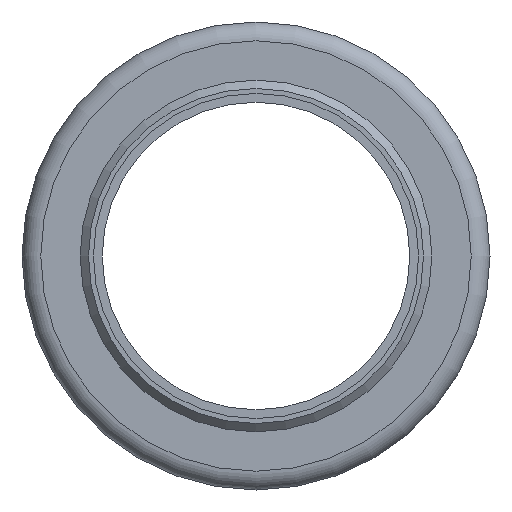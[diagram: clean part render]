
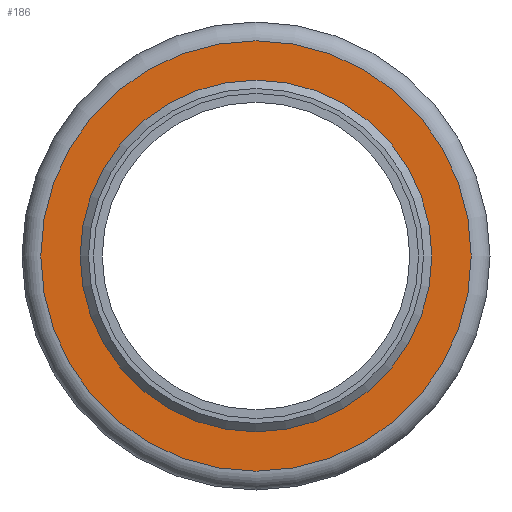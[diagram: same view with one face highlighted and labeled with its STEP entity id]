
A CAD part, front view. The second image highlights one B-rep face of the part: STEP entity #186.
In plain terms, the highlighted planar face has unit normal (0, -1, 0).
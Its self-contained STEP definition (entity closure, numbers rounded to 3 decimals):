
#34=PLANE('',#236);
#55=ORIENTED_EDGE('',*,*,#81,.T.);
#56=ORIENTED_EDGE('',*,*,#80,.F.);
#80=EDGE_CURVE('',#95,#95,#110,.T.);
#81=EDGE_CURVE('',#96,#96,#111,.T.);
#95=VERTEX_POINT('',#342);
#96=VERTEX_POINT('',#345);
#110=CIRCLE('',#235,84.15);
#111=CIRCLE('',#237,103.);
#130=EDGE_LOOP('',(#55));
#131=EDGE_LOOP('',(#56));
#160=FACE_BOUND('',#130,.T.);
#161=FACE_BOUND('',#131,.T.);
#186=ADVANCED_FACE('',(#160,#161),#34,.T.);
#235=AXIS2_PLACEMENT_3D('',#341,#282,#283);
#236=AXIS2_PLACEMENT_3D('',#343,#284,#285);
#237=AXIS2_PLACEMENT_3D('',#344,#286,#287);
#282=DIRECTION('',(0.,-1.,0.));
#283=DIRECTION('',(0.,0.,-1.));
#284=DIRECTION('',(0.,-1.,0.));
#285=DIRECTION('',(0.,0.,-1.));
#286=DIRECTION('',(0.,-1.,0.));
#287=DIRECTION('',(0.,0.,-1.));
#341=CARTESIAN_POINT('',(0.,0.,0.));
#342=CARTESIAN_POINT('',(0.,0.,-84.15));
#343=CARTESIAN_POINT('',(0.,0.,84.15));
#344=CARTESIAN_POINT('',(0.,0.,0.));
#345=CARTESIAN_POINT('',(0.,0.,-103.));
